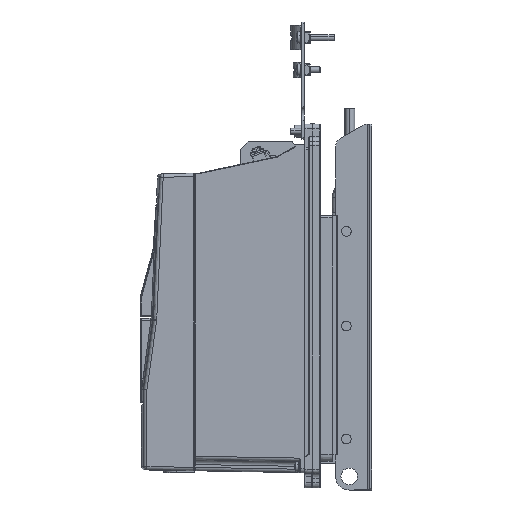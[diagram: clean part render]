
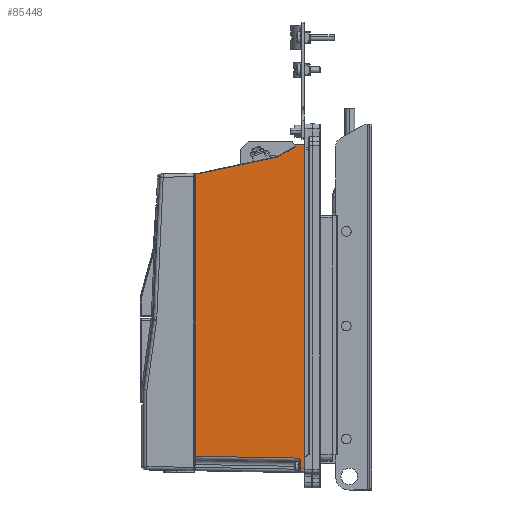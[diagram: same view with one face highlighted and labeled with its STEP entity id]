
A CAD part, left-side view. The second image highlights one B-rep face of the part: STEP entity #85448.
In plain terms, the highlighted planar face has unit normal (-1, 0.018, 0).
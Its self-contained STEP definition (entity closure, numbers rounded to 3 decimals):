
#8 = ORIENTED_EDGE ( 'NONE', *, *, #38792, .F. ) ;
#622 = EDGE_CURVE ( 'NONE', #110155, #53976, #29052, .T. ) ;
#1011 = EDGE_CURVE ( 'NONE', #51446, #39579, #113053, .T. ) ;
#1557 = EDGE_CURVE ( 'NONE', #9569, #51446, #40087, .T. ) ;
#1926 = ORIENTED_EDGE ( 'NONE', *, *, #67999, .T. ) ;
#2265 = VERTEX_POINT ( 'NONE', #100318 ) ;
#3483 = EDGE_CURVE ( 'NONE', #89280, #58012, #115617, .T. ) ;
#3485 = ORIENTED_EDGE ( 'NONE', *, *, #71566, .T. ) ;
#3618 = DIRECTION ( 'NONE',  ( 0., 0., -1. ) ) ;
#5084 = CARTESIAN_POINT ( 'NONE',  ( -110.747, -49.991, -165.929 ) ) ;
#6068 = EDGE_CURVE ( 'NONE', #48194, #89280, #67708, .T. ) ;
#7504 = CARTESIAN_POINT ( 'NONE',  ( -110.819, -54., -166.001 ) ) ;
#9333 = CARTESIAN_POINT ( 'NONE',  ( -110.326, -26.545, 153.611 ) ) ;
#9541 = LINE ( 'NONE', #106042, #123276 ) ;
#9569 = VERTEX_POINT ( 'NONE', #87879 ) ;
#10932 = CARTESIAN_POINT ( 'NONE',  ( -108.809, 58.009, 170. ) ) ;
#13431 = ORIENTED_EDGE ( 'NONE', *, *, #53415, .T. ) ;
#13476 = CARTESIAN_POINT ( 'NONE',  ( -110.328, -26.648, 153.633 ) ) ;
#18608 = CARTESIAN_POINT ( 'NONE',  ( -110.658, -44.991, 170. ) ) ;
#19900 = DIRECTION ( 'NONE',  ( 1., -0.018, 0. ) ) ;
#20505 = LINE ( 'NONE', #51528, #32729 ) ;
#21705 = CARTESIAN_POINT ( 'NONE',  ( -110.819, -54., 170. ) ) ;
#23141 = CARTESIAN_POINT ( 'NONE',  ( -110.33, -26.746, 153.671 ) ) ;
#26016 = ORIENTED_EDGE ( 'NONE', *, *, #6068, .T. ) ;
#27409 = CARTESIAN_POINT ( 'NONE',  ( -108.887, 53.646, 136.585 ) ) ;
#29052 = LINE ( 'NONE', #113209, #131027 ) ;
#29107 = ORIENTED_EDGE ( 'NONE', *, *, #1011, .T. ) ;
#30908 = FACE_OUTER_BOUND ( 'NONE', #130586, .T. ) ;
#31095 = DIRECTION ( 'NONE',  ( 0.018, 1., -0.017 ) ) ;
#32322 = CARTESIAN_POINT ( 'NONE',  ( -108.926, 51.493, 137.024 ) ) ;
#32729 = VECTOR ( 'NONE', #73599, 1000. ) ;
#32922 = CARTESIAN_POINT ( 'NONE',  ( -108.8, 58.5, 170. ) ) ;
#34167 = CARTESIAN_POINT ( 'NONE',  ( -110.658, -44.991, 166. ) ) ;
#36162 = ORIENTED_EDGE ( 'NONE', *, *, #133273, .T. ) ;
#37453 = CARTESIAN_POINT ( 'NONE',  ( -108.891, 53.455, 136.607 ) ) ;
#37548 = CARTESIAN_POINT ( 'NONE',  ( -110.747, -49.956, -157.147 ) ) ;
#37719 = CARTESIAN_POINT ( 'NONE',  ( -110.649, -44.491, 163.917 ) ) ;
#37730 = CARTESIAN_POINT ( 'NONE',  ( -108.891, 53.455, 136.607 ) ) ;
#38792 = EDGE_CURVE ( 'NONE', #110155, #58012, #74805, .T. ) ;
#39579 = VERTEX_POINT ( 'NONE', #51746 ) ;
#39952 = DIRECTION ( 'NONE',  ( 0., 0., -1. ) ) ;
#40087 = LINE ( 'NONE', #71832, #65101 ) ;
#40792 = VECTOR ( 'NONE', #126131, 1000. ) ;
#42521 = CARTESIAN_POINT ( 'NONE',  ( -110.73, -49.009, -154.992 ) ) ;
#44826 = CARTESIAN_POINT ( 'NONE',  ( -110.654, -44.808, 164.1 ) ) ;
#45865 = CARTESIAN_POINT ( 'NONE',  ( -110.73, -49.009, -154.992 ) ) ;
#45893 = EDGE_CURVE ( 'NONE', #2265, #112708, #102793, .T. ) ;
#46169 = EDGE_CURVE ( 'NONE', #60638, #123984, #88681, .T. ) ;
#46922 = ORIENTED_EDGE ( 'NONE', *, *, #622, .T. ) ;
#47233 = CARTESIAN_POINT ( 'NONE',  ( -110.734, -49.246, -155.402 ) ) ;
#48194 = VERTEX_POINT ( 'NONE', #70908 ) ;
#51446 = VERTEX_POINT ( 'NONE', #56083 ) ;
#51528 = CARTESIAN_POINT ( 'NONE',  ( -108.699, 64.136, -153.017 ) ) ;
#51746 = CARTESIAN_POINT ( 'NONE',  ( -108.809, 58.009, -153.124 ) ) ;
#52484 = VERTEX_POINT ( 'NONE', #37453 ) ;
#53147 = VECTOR ( 'NONE', #74425, 1000. ) ;
#53415 = EDGE_CURVE ( 'NONE', #53976, #112708, #134478, .T. ) ;
#53976 = VERTEX_POINT ( 'NONE', #34167 ) ;
#55953 = ORIENTED_EDGE ( 'NONE', *, *, #1557, .T. ) ;
#56083 = CARTESIAN_POINT ( 'NONE',  ( -108.809, 58.009, 136.509 ) ) ;
#58012 = VERTEX_POINT ( 'NONE', #7504 ) ;
#60638 = VERTEX_POINT ( 'NONE', #9333 ) ;
#61943 = DIRECTION ( 'NONE',  ( 0.018, 1., 0. ) ) ;
#63069 = DIRECTION ( 'NONE',  ( 0., 0., -1. ) ) ;
#63801 = DIRECTION ( 'NONE',  ( -0.018, -1., -0.018 ) ) ;
#65101 = VECTOR ( 'NONE', #31095, 1000. ) ;
#66537 = CARTESIAN_POINT ( 'NONE',  ( -110.747, -49.991, -157.379 ) ) ;
#67708 = LINE ( 'NONE', #78756, #116186 ) ;
#67999 = EDGE_CURVE ( 'NONE', #60638, #52484, #97170, .T. ) ;
#69303 = CARTESIAN_POINT ( 'NONE',  ( -110.738, -49.482, -155.814 ) ) ;
#69463 = CARTESIAN_POINT ( 'NONE',  ( -110.658, -44.991, 164.784 ) ) ;
#70826 = CARTESIAN_POINT ( 'NONE',  ( -108.888, 53.582, 136.586 ) ) ;
#70908 = CARTESIAN_POINT ( 'NONE',  ( -110.747, -49.991, -157.617 ) ) ;
#71566 = EDGE_CURVE ( 'NONE', #125598, #48194, #102338, .T. ) ;
#71832 = CARTESIAN_POINT ( 'NONE',  ( -108.81, 57.916, 136.51 ) ) ;
#73599 = DIRECTION ( 'NONE',  ( -0.018, -1., -0.017 ) ) ;
#74425 = DIRECTION ( 'NONE',  ( 0.018, 0.978, -0.208 ) ) ;
#74805 = LINE ( 'NONE', #21705, #115488 ) ;
#75554 = CARTESIAN_POINT ( 'NONE',  ( -110.326, -26.545, 153.611 ) ) ;
#78497 = CARTESIAN_POINT ( 'NONE',  ( -110.819, -54., 166. ) ) ;
#78756 = CARTESIAN_POINT ( 'NONE',  ( -110.747, -49.991, -165.921 ) ) ;
#83064 = ORIENTED_EDGE ( 'NONE', *, *, #104398, .F. ) ;
#83071 = AXIS2_PLACEMENT_3D ( 'NONE', #32922, #19900, #61943 ) ;
#84568 = CARTESIAN_POINT ( 'NONE',  ( -108.693, 64.434, -163.895 ) ) ;
#85238 = CARTESIAN_POINT ( 'NONE',  ( -110.332, -26.837, 153.723 ) ) ;
#85448 = ADVANCED_FACE ( 'NONE', ( #30908 ), #86051, .F. ) ;
#86051 = PLANE ( 'NONE',  #83071 ) ;
#87274 = CARTESIAN_POINT ( 'NONE',  ( -110.743, -49.76, -156.465 ) ) ;
#87879 = CARTESIAN_POINT ( 'NONE',  ( -108.887, 53.646, 136.585 ) ) ;
#88359 = CARTESIAN_POINT ( 'NONE',  ( -110.658, -44.991, 164.784 ) ) ;
#88681 =( BOUNDED_CURVE ( )  B_SPLINE_CURVE ( 3, ( #75554, #13476, #23141, #85238 ),
 .UNSPECIFIED., .F., .T. ) 
 B_SPLINE_CURVE_WITH_KNOTS ( ( 4, 4 ),
 ( 4.398, 4.712 ),
 .UNSPECIFIED. ) 
 CURVE ( )  GEOMETRIC_REPRESENTATION_ITEM ( )  RATIONAL_B_SPLINE_CURVE ( ( 1., 0.992, 0.992, 1. ) ) 
 REPRESENTATION_ITEM ( '' )  );
#88991 = ORIENTED_EDGE ( 'NONE', *, *, #46169, .F. ) ;
#89280 = VERTEX_POINT ( 'NONE', #5084 ) ;
#89286 = VECTOR ( 'NONE', #63801, 1000. ) ;
#93208 = DIRECTION ( 'NONE',  ( 0.018, 1., 0. ) ) ;
#97170 = LINE ( 'NONE', #32322, #53147 ) ;
#99852 = CARTESIAN_POINT ( 'NONE',  ( -110.658, -44.991, 164.418 ) ) ;
#100318 = CARTESIAN_POINT ( 'NONE',  ( -110.649, -44.491, 163.917 ) ) ;
#102338 = B_SPLINE_CURVE_WITH_KNOTS ( 'NONE', 3,
 ( #45865, #47233, #69303, #87274, #129340, #37548, #66537, #130711 ),
 .UNSPECIFIED., .F., .F.,
 ( 4, 2, 2, 4 ),
 ( 0., 0.001, 0.002, 0.003 ),
 .UNSPECIFIED. ) ;
#102433 = ORIENTED_EDGE ( 'NONE', *, *, #3483, .T. ) ;
#102793 =( BOUNDED_CURVE ( )  B_SPLINE_CURVE ( 3, ( #37719, #44826, #99852, #69463 ),
 .UNSPECIFIED., .F., .T. ) 
 B_SPLINE_CURVE_WITH_KNOTS ( ( 4, 4 ),
 ( 4.712, 5.76 ),
 .UNSPECIFIED. ) 
 CURVE ( )  GEOMETRIC_REPRESENTATION_ITEM ( )  RATIONAL_B_SPLINE_CURVE ( ( 1., 0.911, 0.911, 1. ) ) 
 REPRESENTATION_ITEM ( '' )  );
#103146 = VECTOR ( 'NONE', #39952, 1000. ) ;
#104398 = EDGE_CURVE ( 'NONE', #9569, #52484, #115899, .T. ) ;
#106042 = CARTESIAN_POINT ( 'NONE',  ( -110.33, -26.763, 153.681 ) ) ;
#110155 = VERTEX_POINT ( 'NONE', #78497 ) ;
#110616 = ORIENTED_EDGE ( 'NONE', *, *, #118648, .T. ) ;
#112708 = VERTEX_POINT ( 'NONE', #88359 ) ;
#113053 = LINE ( 'NONE', #10932, #40792 ) ;
#113209 = CARTESIAN_POINT ( 'NONE',  ( -108.8, 58.5, 166. ) ) ;
#115488 = VECTOR ( 'NONE', #63069, 1000. ) ;
#115617 = LINE ( 'NONE', #84568, #89286 ) ;
#115899 =( BOUNDED_CURVE ( )  B_SPLINE_CURVE ( 3, ( #27409, #70826, #131576, #37730 ),
 .UNSPECIFIED., .F., .T. ) 
 B_SPLINE_CURVE_WITH_KNOTS ( ( 4, 4 ),
 ( 1.588, 1.78 ),
 .UNSPECIFIED. ) 
 CURVE ( )  GEOMETRIC_REPRESENTATION_ITEM ( )  RATIONAL_B_SPLINE_CURVE ( ( 1., 0.997, 0.997, 1. ) ) 
 REPRESENTATION_ITEM ( '' )  );
#116186 = VECTOR ( 'NONE', #3618, 1000. ) ;
#118648 = EDGE_CURVE ( 'NONE', #2265, #123984, #9541, .T. ) ;
#122745 = ORIENTED_EDGE ( 'NONE', *, *, #45893, .F. ) ;
#123276 = VECTOR ( 'NONE', #135756, 1000. ) ;
#123984 = VERTEX_POINT ( 'NONE', #136518 ) ;
#125598 = VERTEX_POINT ( 'NONE', #42521 ) ;
#126131 = DIRECTION ( 'NONE',  ( 0., 0., -1. ) ) ;
#129340 = CARTESIAN_POINT ( 'NONE',  ( -110.745, -49.84, -156.69 ) ) ;
#130586 = EDGE_LOOP ( 'NONE', ( #8, #46922, #13431, #122745, #110616, #88991, #1926, #83064, #55953, #29107, #36162, #3485, #26016, #102433 ) ) ;
#130711 = CARTESIAN_POINT ( 'NONE',  ( -110.747, -49.991, -157.617 ) ) ;
#131027 = VECTOR ( 'NONE', #93208, 1000. ) ;
#131576 = CARTESIAN_POINT ( 'NONE',  ( -108.889, 53.518, 136.593 ) ) ;
#133273 = EDGE_CURVE ( 'NONE', #39579, #125598, #20505, .T. ) ;
#134478 = LINE ( 'NONE', #18608, #103146 ) ;
#135756 = DIRECTION ( 'NONE',  ( 0.016, 0.866, -0.5 ) ) ;
#136518 = CARTESIAN_POINT ( 'NONE',  ( -110.332, -26.837, 153.723 ) ) ;
